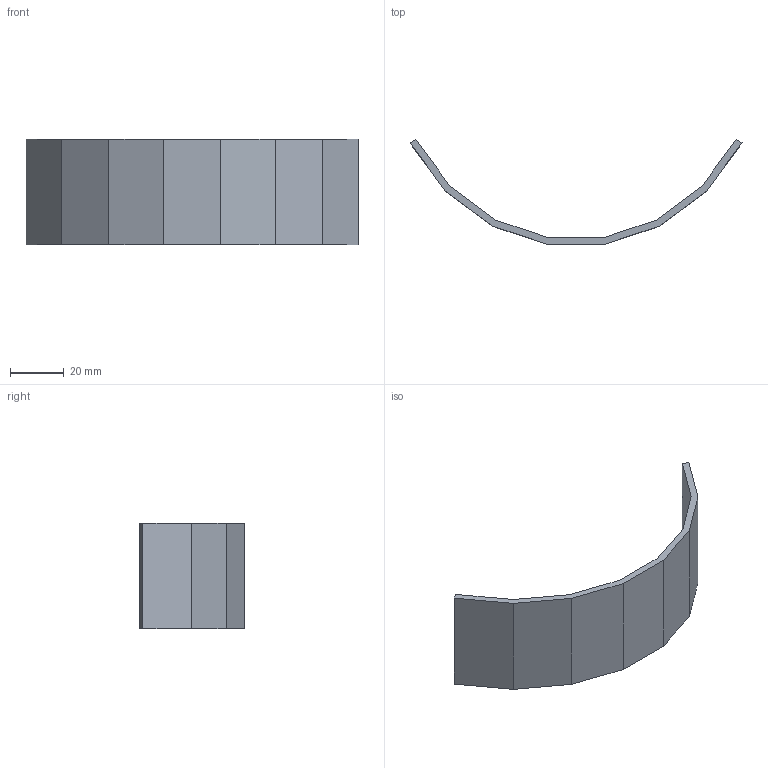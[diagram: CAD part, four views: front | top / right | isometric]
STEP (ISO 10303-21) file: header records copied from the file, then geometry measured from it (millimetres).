
FILE_DESCRIPTION(('Open CASCADE Model'),'2;1');
FILE_NAME('Open CASCADE Shape Model','2026-09-19T23:46:40',('Author'),( 'Open CASCADE'),'Open CASCADE STEP processor 7.9','Open CASCADE 7.9' ,'Unknown');
FILE_SCHEMA(('AUTOMOTIVE_DESIGN { 1 0 10303 214 1 1 1 1 }'));
Length unit declared in the file: millimetre
Products named in the file (1): Open CASCADE STEP translator 7.9 48
Bounding box: 122.98 x 38.89 x 39 mm (x, y, z)
Volume: 14381.8 mm3; surface area: 12574.1 mm2
Topology: 1 solids, 1 shells, 18 faces, 48 edges, 32 vertices
Faces by surface type: plane 18
Entity records: 1138 total; most frequent: CARTESIAN_POINT 243, DIRECTION 134, ORIENTED_EDGE 96, LINE 96, VECTOR 96, PCURVE 96, DEFINITIONAL_REPRESENTATION 96, EDGE_CURVE 48
